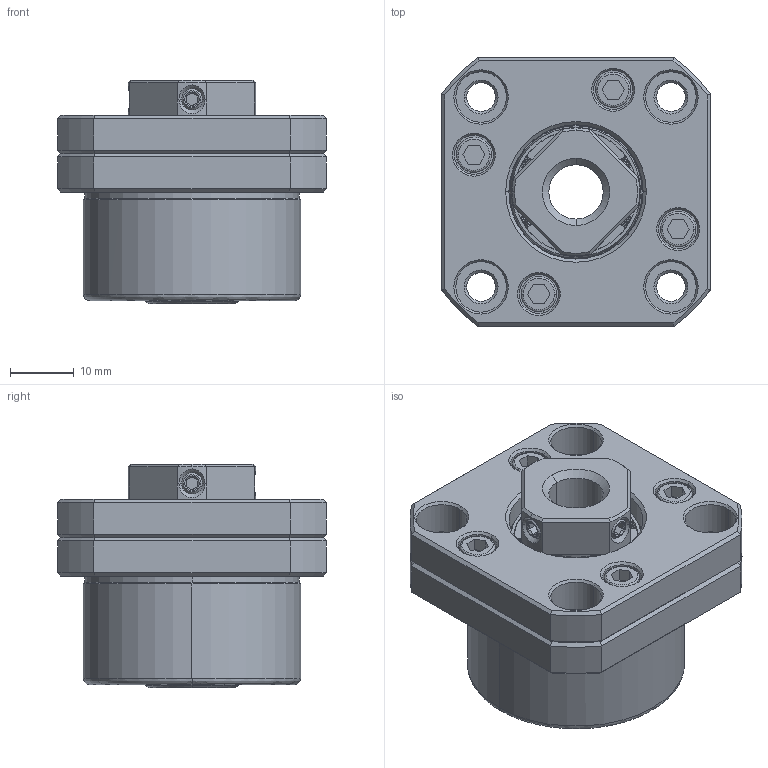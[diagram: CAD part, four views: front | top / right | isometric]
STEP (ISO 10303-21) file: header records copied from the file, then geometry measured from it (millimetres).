
FILE_DESCRIPTION (( 'STEP AP214' ), '1' );
FILE_NAME ('7.4017 FK10.STEP', '2026-03-06T07:22:29', ( '' ), ( '' ), 'SwSTEP 2.0', 'SolidWorks 2025', '' );
FILE_SCHEMA (( 'AUTOMOTIVE_DESIGN' ));
Length unit declared in the file: millimetre
Products named in the file (1): 7.4017 FK10
Bounding box: 42 x 42 x 35 mm (x, y, z)
Volume: 30736.5 mm3; surface area: 20153.9 mm2
Topology: 13 solids, 13 shells, 762 faces, 1932 edges, 1233 vertices
Faces by surface type: cone 310, plane 243, cylinder 137, bspline 72
Entity records: 30156 total; most frequent: CARTESIAN_POINT 7208, DIRECTION 3865, ORIENTED_EDGE 3864, EDGE_CURVE 1932, AXIS2_PLACEMENT_3D 1608, VERTEX_POINT 1233, CIRCLE 917, EDGE_LOOP 841
